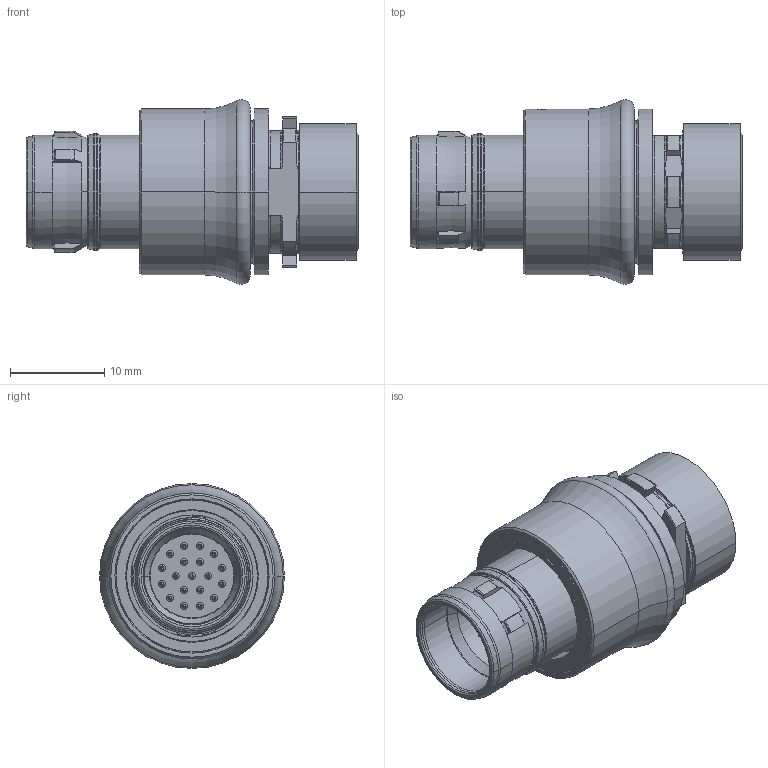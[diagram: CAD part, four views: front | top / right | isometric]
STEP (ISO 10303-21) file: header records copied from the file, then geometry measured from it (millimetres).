
FILE_DESCRIPTION((''),'2;1');
FILE_NAME('00052390--','2020-10-27T13:33:07',('EUnterhaslberger'),(''),'CREO PARAMETRIC BY PTC INC, 2018300','CREO PARAMETRIC BY PTC INC, 2018300','');
FILE_SCHEMA(('AP242_MANAGED_MODEL_BASED_3D_ENGINEERING_MIM_LF { 1 0 10303 442 1 1 4 }'));
Length unit declared in the file: millimetre
Products named in the file (1): 00052390--
Bounding box: 35.2 x 19.6 x 19.6 mm (x, y, z)
Volume: 3963.3 mm3; surface area: 7811.8 mm2
Topology: 2 solids, 4 shells, 1001 faces, 2597 edges, 1630 vertices
Faces by surface type: cylinder 394, plane 246, torus 146, cone 139, bspline 38, sphere 38
Entity records: 40001 total; most frequent: CARTESIAN_POINT 8213, DIRECTION 5499, ORIENTED_EDGE 5042, EDGE_CURVE 2521, AXIS2_PLACEMENT_3D 2320, VERTEX_POINT 1630, CIRCLE 1357, EDGE_LOOP 1127
